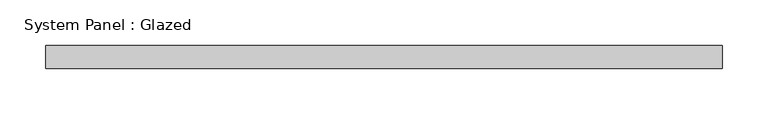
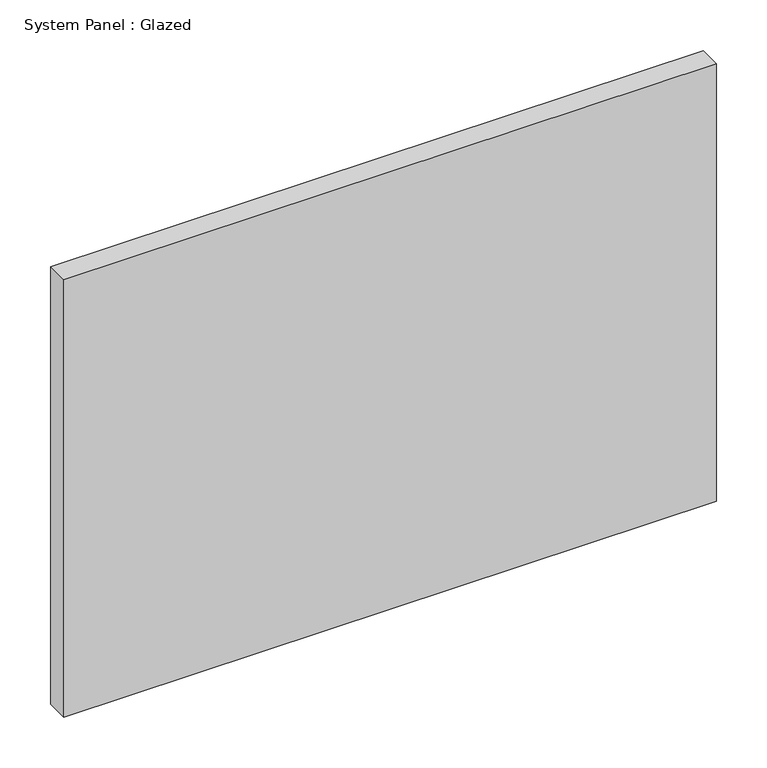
"""IFC4 building model written with IfcOpenShell, lengths in millimetres: plate geometry, System Panel : Glazed."""

from ifc_helpers import new_model, si_unit, origin, origin_with_axes, place, context, project, spatial, polyline, outline, extrude, source, transform, mapped, element, save


def system_panel_glazed_49c46af5(model_context):
    return source(origin(), model_context, "Body", "SweptSolid", [
        extrude(outline(polyline([(371.475, 19.05), (-371.475, 19.05), (-371.475, 44.45), (371.475, 44.45), (371.475, 19.05)])), origin_with_axes(), (0.0, 0.0, 1.0), 526.35),
    ])


if __name__ == "__main__":
    model = new_model("IFC4")
    model_context = context("Model", 3, world=origin())
    ifc_project = project(units=[si_unit("LENGTHUNIT", "METRE", prefix="MILLI")], contexts=[model_context])
    site = spatial("IfcSite", under=ifc_project)
    building = spatial("IfcBuilding", under=site)
    placement = place(None, origin())
    system_panel_glazed_shape = system_panel_glazed_49c46af5(model_context)
    element("IfcPlate", 1, ObjectType="System Panel : Glazed", at=placement, inside=building, context=model_context, shape_type="MappedRepresentation", body=[
        mapped(system_panel_glazed_shape, transform((0.0, 0.0, 0.0), x_axis=(1.0, 0.0, 0.0), y_axis=(0.0, 1.0, 0.0), z_axis=(0.0, 0.0, 1.0))),
    ])
    save(model, "model.ifc")
